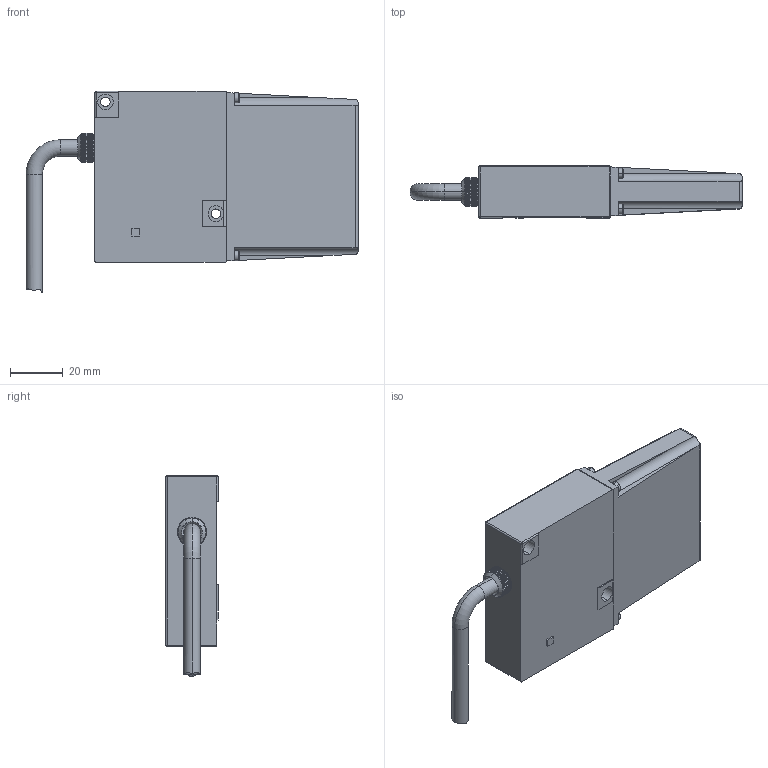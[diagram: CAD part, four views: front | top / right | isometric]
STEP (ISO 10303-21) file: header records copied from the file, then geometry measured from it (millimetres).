
FILE_DESCRIPTION (( 'STEP AP203' ), '1' );
FILE_NAME ('RF603_CG + Áëåíäà.STEP', '2011-03-17T08:21:17', ( 'Ñåðãåé Ì' ), ( '' ), 'SwSTEP 2.0', 'SolidWorks 2009', '' );
FILE_SCHEMA (( 'CONFIG_CONTROL_DESIGN' ));
Length unit declared in the file: millimetre
Products named in the file (7): RF603_CG + 鍛樇魡; RF603.00.04; RF603.00.51; RF605.00.026; RF603.00.81; ISO 14581_Ì2õ4_Default; DIN 912 _Ì2õ6_Default
Assembly tree (11 placements, depth 2):
  RF603_CG + 鍛樇魡
    ISO 14581_Ì2õ4_Default  x3
    DIN 912 _Ì2õ6_Default  x4
    RF605.00.026
    RF603.00.81
    RF603.00.51
    RF603.00.04
Bounding box: 126.2 x 20 x 76.5 mm (x, y, z)
Volume: 82914.9 mm3; surface area: 28927.9 mm2
Topology: 11 solids, 11 shells, 491 faces, 1277 edges, 818 vertices
Faces by surface type: plane 270, cylinder 165, cone 44, torus 6, sphere 5, bspline 1
Entity records: 13620 total; most frequent: CARTESIAN_POINT 3072, ORIENTED_EDGE 2108, DIRECTION 1929, EDGE_CURVE 1054, AXIS2_PLACEMENT_3D 725, VERTEX_POINT 684, VECTOR 479, LINE 479
